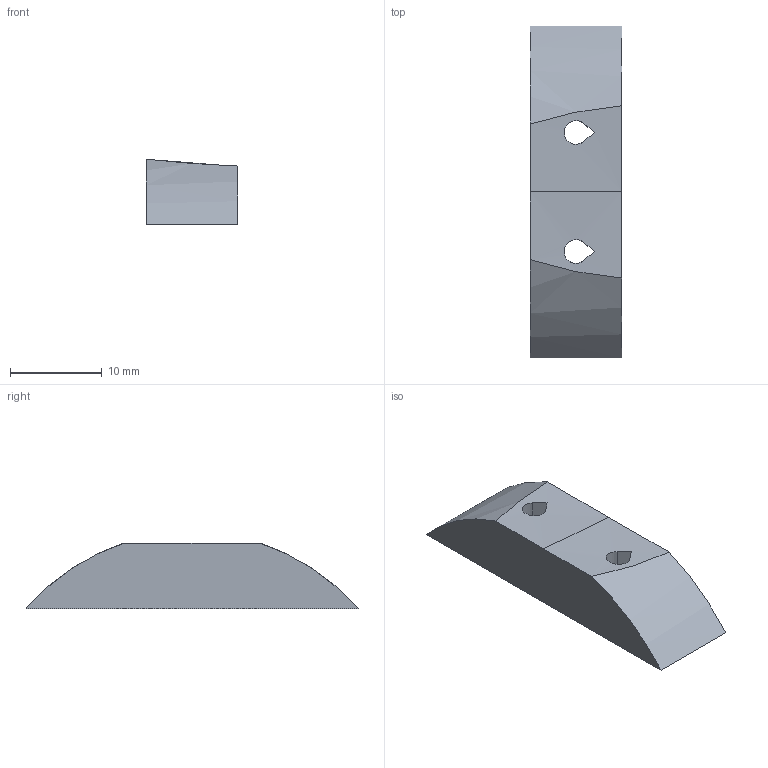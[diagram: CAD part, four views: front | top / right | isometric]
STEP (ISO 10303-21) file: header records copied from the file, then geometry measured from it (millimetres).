
FILE_DESCRIPTION(('SkyG Speed 120B - revision C7B-1 - 2026-10-09','NB1-wing-nut-bar-front'),'2;1');
FILE_NAME('NB1-wing-nut-bar-front_C7B-1','2026-10-09T15:13:01',('Author'),( 'Open CASCADE'),'Open CASCADE STEP processor 7.9','Open CASCADE 7.9' ,'Unknown');
FILE_SCHEMA(('AUTOMOTIVE_DESIGN { 1 0 10303 214 1 1 1 1 }'));
Length unit declared in the file: millimetre
Products named in the file (1): NB1-wing-nut-bar-front C7B-1
Bounding box: 10 x 36.25 x 7.17 mm (x, y, z)
Volume: 1831.7 mm3; surface area: 1251.3 mm2
Topology: 1 solids, 1 shells, 13 faces, 33 edges, 22 vertices
Faces by surface type: plane 7, cylinder 4, bspline 2
Entity records: 2628 total; most frequent: CARTESIAN_POINT 2029, DIRECTION 79, ORIENTED_EDGE 66, PCURVE 66, DEFINITIONAL_REPRESENTATION 66, B_SPLINE_CURVE_WITH_KNOTS 50, LINE 37, VECTOR 37
